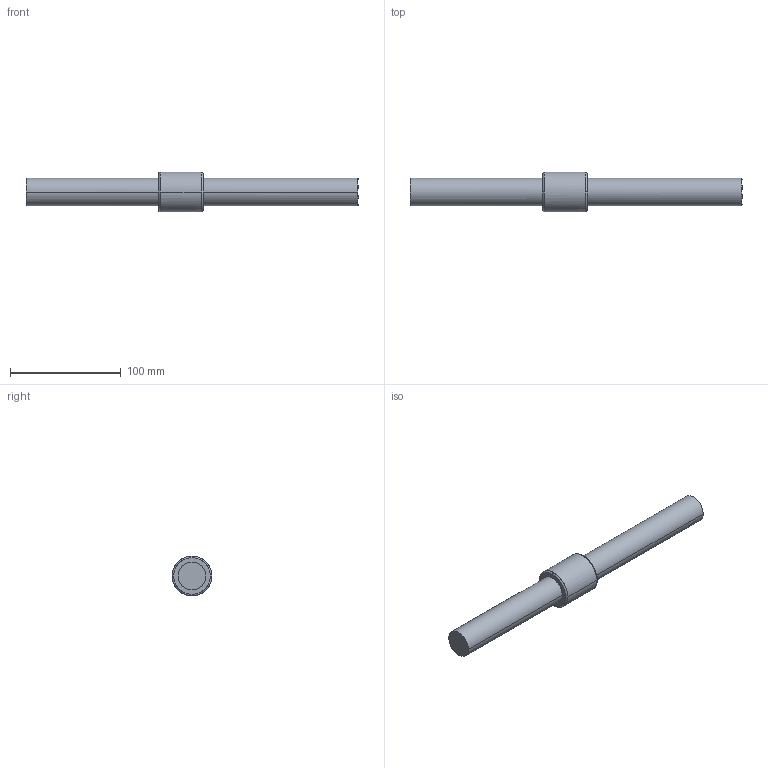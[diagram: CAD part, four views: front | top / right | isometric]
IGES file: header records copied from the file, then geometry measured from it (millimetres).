
Global section: file name: No Iges File Name specified; native system: AutoDesk Inventor R10; preprocessor: AutoDesk Inventor Iges Exporter R10; author: No Author specified; organization: No Organization specified; date: 20101224.154728; units: millimetre
Bounding box: 300 x 36 x 36 mm (x, y, z)
Surface area: 33115.6 mm2 (no closed solid volume)
Topology: 0 solids, 0 shells, 14 faces, 84 edges, 84 vertices
Faces by surface type: bspline 14
